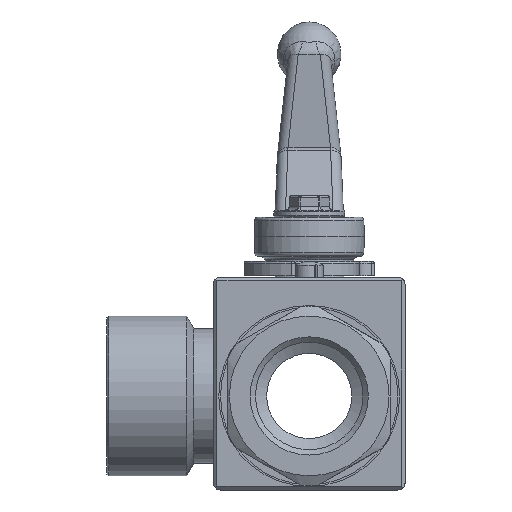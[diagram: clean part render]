
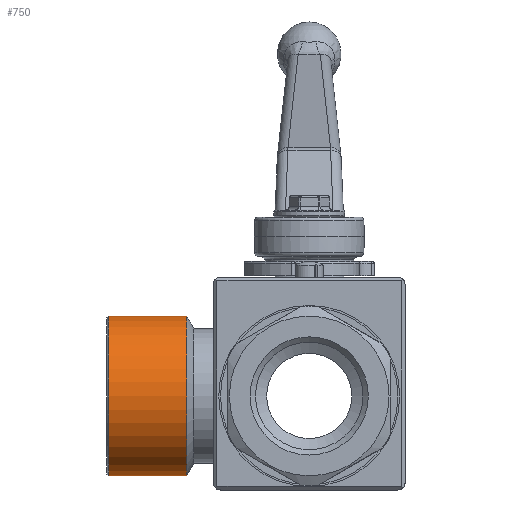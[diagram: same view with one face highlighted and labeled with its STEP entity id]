
A CAD part, front view. The second image highlights one B-rep face of the part: STEP entity #750.
In plain terms, the highlighted cylindrical face has radius 22.5 mm (diameter 45 mm), a full revolution.
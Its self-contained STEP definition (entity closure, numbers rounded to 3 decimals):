
#750 = ADVANCED_FACE( '', ( #1658, #1659 ), #1660, .T. );
#1658 = FACE_OUTER_BOUND( '', #2991, .T. );
#1659 = FACE_OUTER_BOUND( '', #2992, .T. );
#1660 = CYLINDRICAL_SURFACE( '', #2993, 22.5 );
#2991 = EDGE_LOOP( '', ( #5399 ) );
#2992 = EDGE_LOOP( '', ( #5400 ) );
#2993 = AXIS2_PLACEMENT_3D( '', #5401, #5402, #5403 );
#5399 = ORIENTED_EDGE( '', *, *, #8167, .T. );
#5400 = ORIENTED_EDGE( '', *, *, #8168, .F. );
#5401 = CARTESIAN_POINT( '', ( 0., 33., 0. ) );
#5402 = DIRECTION( '', ( 0., 1., 0. ) );
#5403 = DIRECTION( '', ( 0., 0., -1. ) );
#8167 = EDGE_CURVE( '', #9642, #9642, #9643, .F. );
#8168 = EDGE_CURVE( '', #9644, #9644, #9645, .T. );
#9642 = VERTEX_POINT( '', #11911 );
#9643 = CIRCLE( '', #11912, 22.5 );
#9644 = VERTEX_POINT( '', #11913 );
#9645 = CIRCLE( '', #11914, 22.5 );
#11911 = CARTESIAN_POINT( '', ( 0., 32.5, 22.5 ) );
#11912 = AXIS2_PLACEMENT_3D( '', #14480, #14481, #14482 );
#11913 = CARTESIAN_POINT( '', ( 0., 10.55, -22.5 ) );
#11914 = AXIS2_PLACEMENT_3D( '', #14483, #14484, #14485 );
#14480 = CARTESIAN_POINT( '', ( 0., 32.5, 0. ) );
#14481 = DIRECTION( '', ( 0., 1., 0. ) );
#14482 = DIRECTION( '', ( 0., 0., 1. ) );
#14483 = CARTESIAN_POINT( '', ( 0., 10.55, 0. ) );
#14484 = DIRECTION( '', ( 0., -1., 0. ) );
#14485 = DIRECTION( '', ( 0., 0., -1. ) );
